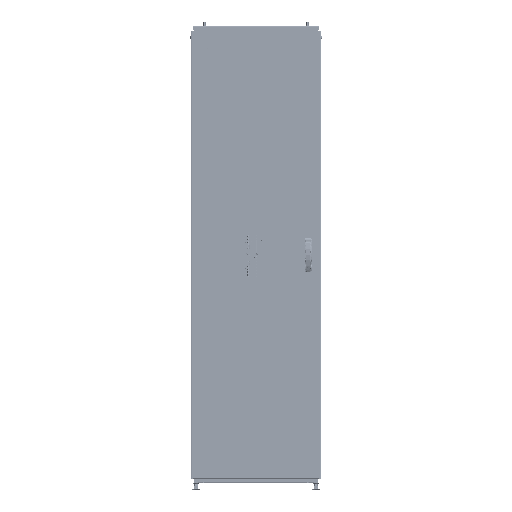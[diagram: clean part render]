
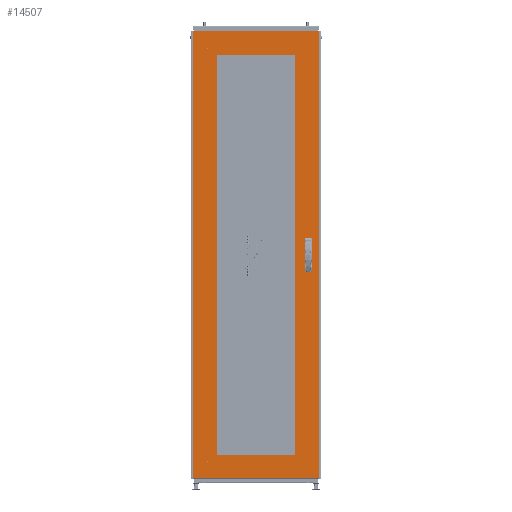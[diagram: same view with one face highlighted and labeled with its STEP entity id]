
A CAD part, top view. The second image highlights one B-rep face of the part: STEP entity #14507.
In plain terms, the highlighted planar face has unit normal (0, 0, 1).
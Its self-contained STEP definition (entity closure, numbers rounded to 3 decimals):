
#2275 = VERTEX_POINT ( 'NONE', #152290 ) ;
#3555 = CARTESIAN_POINT ( 'NONE',  ( 230.187, -75.082, 1.397 ) ) ;
#3805 = VERTEX_POINT ( 'NONE', #157241 ) ;
#8408 = DIRECTION ( 'NONE',  ( 0., 0., 1. ) ) ;
#11438 = VECTOR ( 'NONE', #517570, 1000. ) ;
#13865 = LINE ( 'NONE', #368806, #325184 ) ;
#14507 = ADVANCED_FACE ( 'NONE', ( #64944, #312590, #160288, #458906 ), #376038, .T. ) ;
#14880 = CARTESIAN_POINT ( 'NONE',  ( 292.9, 1041.508, 1.397 ) ) ;
#18480 = EDGE_CURVE ( 'NONE', #3805, #479875, #290002, .T. ) ;
#26893 = VECTOR ( 'NONE', #480709, 1000. ) ;
#27305 = LINE ( 'NONE', #41781, #446678 ) ;
#29158 = CARTESIAN_POINT ( 'NONE',  ( 184., -933., 1.397 ) ) ;
#38684 = VECTOR ( 'NONE', #236541, 1000. ) ;
#41344 = VERTEX_POINT ( 'NONE', #525787 ) ;
#41781 = CARTESIAN_POINT ( 'NONE',  ( -184., 933., 1.397 ) ) ;
#49761 = ORIENTED_EDGE ( 'NONE', *, *, #237920, .F. ) ;
#52082 = VECTOR ( 'NONE', #243988, 1000. ) ;
#54245 = EDGE_CURVE ( 'NONE', #2275, #515191, #13865, .T. ) ;
#56646 = VECTOR ( 'NONE', #267216, 1000. ) ;
#60005 = ORIENTED_EDGE ( 'NONE', *, *, #386078, .F. ) ;
#64497 = EDGE_CURVE ( 'NONE', #338889, #494297, #451958, .T. ) ;
#64944 = FACE_BOUND ( 'NONE', #293402, .T. ) ;
#66373 = CARTESIAN_POINT ( 'NONE',  ( 184., 933., 1.397 ) ) ;
#66406 = VERTEX_POINT ( 'NONE', #116161 ) ;
#69788 = EDGE_CURVE ( 'NONE', #502716, #208051, #106744, .T. ) ;
#77549 = DIRECTION ( 'NONE',  ( 0., 1., 0. ) ) ;
#82589 = ORIENTED_EDGE ( 'NONE', *, *, #166233, .F. ) ;
#82593 = ORIENTED_EDGE ( 'NONE', *, *, #295966, .T. ) ;
#90617 = CARTESIAN_POINT ( 'NONE',  ( 292.9, -1042.929, 1.397 ) ) ;
#97867 = LINE ( 'NONE', #362744, #218639 ) ;
#102172 = CARTESIAN_POINT ( 'NONE',  ( 230.187, -75.082, 1.397 ) ) ;
#106744 = LINE ( 'NONE', #29158, #11438 ) ;
#107275 = ORIENTED_EDGE ( 'NONE', *, *, #397204, .F. ) ;
#108632 = CARTESIAN_POINT ( 'NONE',  ( 184., -933., 1.397 ) ) ;
#116161 = CARTESIAN_POINT ( 'NONE',  ( -292.9, 1041.508, 1.397 ) ) ;
#120616 = ORIENTED_EDGE ( 'NONE', *, *, #54245, .F. ) ;
#123437 = DIRECTION ( 'NONE',  ( 0., 1., 0. ) ) ;
#138247 = EDGE_CURVE ( 'NONE', #494297, #409183, #316879, .T. ) ;
#152290 = CARTESIAN_POINT ( 'NONE',  ( 255.333, 24.917, 1.397 ) ) ;
#157241 = CARTESIAN_POINT ( 'NONE',  ( 230.187, -24.917, 1.397 ) ) ;
#158228 = EDGE_CURVE ( 'NONE', #439311, #483410, #97867, .T. ) ;
#160130 = LINE ( 'NONE', #325677, #52082 ) ;
#160288 = FACE_BOUND ( 'NONE', #389326, .T. ) ;
#166233 = EDGE_CURVE ( 'NONE', #41344, #401754, #496726, .T. ) ;
#167501 = ORIENTED_EDGE ( 'NONE', *, *, #69788, .T. ) ;
#168966 = ORIENTED_EDGE ( 'NONE', *, *, #361620, .T. ) ;
#169597 = VERTEX_POINT ( 'NONE', #392297 ) ;
#174189 = EDGE_CURVE ( 'NONE', #208051, #169597, #27305, .T. ) ;
#180224 = ORIENTED_EDGE ( 'NONE', *, *, #138247, .T. ) ;
#205373 = LINE ( 'NONE', #66373, #427540 ) ;
#206139 = VECTOR ( 'NONE', #458004, 1000. ) ;
#206142 = CARTESIAN_POINT ( 'NONE',  ( -294.321, -1041.508, 1.397 ) ) ;
#207526 = ORIENTED_EDGE ( 'NONE', *, *, #158228, .F. ) ;
#208051 = VERTEX_POINT ( 'NONE', #248371 ) ;
#216063 = CARTESIAN_POINT ( 'NONE',  ( -295.897, -1044.505, 1.397 ) ) ;
#218240 = ORIENTED_EDGE ( 'NONE', *, *, #328923, .T. ) ;
#218639 = VECTOR ( 'NONE', #316590, 1000. ) ;
#224728 = ORIENTED_EDGE ( 'NONE', *, *, #64497, .T. ) ;
#236541 = DIRECTION ( 'NONE',  ( 1., 0., 0. ) ) ;
#237920 = EDGE_CURVE ( 'NONE', #515191, #439311, #255606, .T. ) ;
#243988 = DIRECTION ( 'NONE',  ( -1., 0., 0. ) ) ;
#248371 = CARTESIAN_POINT ( 'NONE',  ( -184., -933., 1.397 ) ) ;
#248679 = DIRECTION ( 'NONE',  ( 0., 1., 0. ) ) ;
#250944 = LINE ( 'NONE', #402628, #441590 ) ;
#253668 = CARTESIAN_POINT ( 'NONE',  ( -292.9, 1042.929, 1.397 ) ) ;
#254633 = LINE ( 'NONE', #435576, #38684 ) ;
#255606 = LINE ( 'NONE', #326047, #26893 ) ;
#258187 = DIRECTION ( 'NONE',  ( 0., -1., 0. ) ) ;
#267216 = DIRECTION ( 'NONE',  ( 1., 0., 0. ) ) ;
#283480 = EDGE_CURVE ( 'NONE', #409183, #66406, #250944, .T. ) ;
#285259 = DIRECTION ( 'NONE',  ( -1., 0., 0. ) ) ;
#290002 = LINE ( 'NONE', #498171, #467882 ) ;
#293402 = EDGE_LOOP ( 'NONE', ( #82589, #107275, #524467, #330431 ) ) ;
#295966 = EDGE_CURVE ( 'NONE', #355615, #502716, #205373, .T. ) ;
#312590 = FACE_BOUND ( 'NONE', #523699, .T. ) ;
#316590 = DIRECTION ( 'NONE',  ( 0., -1., 0. ) ) ;
#316879 = LINE ( 'NONE', #90617, #386778 ) ;
#319734 = AXIS2_PLACEMENT_3D ( 'NONE', #216063, #8408, #374269 ) ;
#321869 = DIRECTION ( 'NONE',  ( 0., -1., 0. ) ) ;
#324932 = VECTOR ( 'NONE', #366062, 1000. ) ;
#325184 = VECTOR ( 'NONE', #77549, 1000. ) ;
#325677 = CARTESIAN_POINT ( 'NONE',  ( 230.187, -24.917, 1.397 ) ) ;
#326047 = CARTESIAN_POINT ( 'NONE',  ( 230.187, 75.082, 1.397 ) ) ;
#328923 = EDGE_CURVE ( 'NONE', #66406, #338889, #453878, .T. ) ;
#330431 = ORIENTED_EDGE ( 'NONE', *, *, #505952, .F. ) ;
#333917 = CARTESIAN_POINT ( 'NONE',  ( -292.9, -1041.508, 1.397 ) ) ;
#338889 = VERTEX_POINT ( 'NONE', #333917 ) ;
#347309 = VECTOR ( 'NONE', #372911, 1000. ) ;
#355615 = VERTEX_POINT ( 'NONE', #405383 ) ;
#361620 = EDGE_CURVE ( 'NONE', #169597, #355615, #488886, .T. ) ;
#362744 = CARTESIAN_POINT ( 'NONE',  ( 230.187, 24.917, 1.397 ) ) ;
#366062 = DIRECTION ( 'NONE',  ( 1., 0., 0. ) ) ;
#368806 = CARTESIAN_POINT ( 'NONE',  ( 255.333, 24.917, 1.397 ) ) ;
#372911 = DIRECTION ( 'NONE',  ( 1., 0., 0. ) ) ;
#374269 = DIRECTION ( 'NONE',  ( 1., 0., 0. ) ) ;
#376038 = PLANE ( 'NONE',  #319734 ) ;
#386078 = EDGE_CURVE ( 'NONE', #483410, #2275, #254633, .T. ) ;
#386778 = VECTOR ( 'NONE', #248679, 1000. ) ;
#389326 = EDGE_LOOP ( 'NONE', ( #439480, #168966, #82593, #167501 ) ) ;
#392297 = CARTESIAN_POINT ( 'NONE',  ( -184., 933., 1.397 ) ) ;
#397204 = EDGE_CURVE ( 'NONE', #479875, #41344, #487037, .T. ) ;
#401754 = VERTEX_POINT ( 'NONE', #418103 ) ;
#402628 = CARTESIAN_POINT ( 'NONE',  ( 294.321, 1041.508, 1.397 ) ) ;
#405383 = CARTESIAN_POINT ( 'NONE',  ( 184., 933., 1.397 ) ) ;
#409183 = VERTEX_POINT ( 'NONE', #14880 ) ;
#410221 = CARTESIAN_POINT ( 'NONE',  ( 292.9, -1041.508, 1.397 ) ) ;
#411904 = CARTESIAN_POINT ( 'NONE',  ( 255.333, 75.082, 1.397 ) ) ;
#413941 = EDGE_LOOP ( 'NONE', ( #437710, #218240, #224728, #180224 ) ) ;
#417993 = CARTESIAN_POINT ( 'NONE',  ( 255.333, -24.917, 1.397 ) ) ;
#418103 = CARTESIAN_POINT ( 'NONE',  ( 255.333, -24.917, 1.397 ) ) ;
#419726 = DIRECTION ( 'NONE',  ( 0., 1., 0. ) ) ;
#427540 = VECTOR ( 'NONE', #321869, 1000. ) ;
#435576 = CARTESIAN_POINT ( 'NONE',  ( 230.187, 24.917, 1.397 ) ) ;
#437710 = ORIENTED_EDGE ( 'NONE', *, *, #283480, .T. ) ;
#439311 = VERTEX_POINT ( 'NONE', #463348 ) ;
#439480 = ORIENTED_EDGE ( 'NONE', *, *, #174189, .T. ) ;
#441590 = VECTOR ( 'NONE', #285259, 1000. ) ;
#446678 = VECTOR ( 'NONE', #123437, 1000. ) ;
#451958 = LINE ( 'NONE', #206142, #324932 ) ;
#453878 = LINE ( 'NONE', #253668, #206139 ) ;
#458004 = DIRECTION ( 'NONE',  ( 0., -1., 0. ) ) ;
#458906 = FACE_OUTER_BOUND ( 'NONE', #413941, .T. ) ;
#463348 = CARTESIAN_POINT ( 'NONE',  ( 230.187, 75.082, 1.397 ) ) ;
#467882 = VECTOR ( 'NONE', #258187, 1000. ) ;
#471110 = VECTOR ( 'NONE', #419726, 1000. ) ;
#479875 = VERTEX_POINT ( 'NONE', #102172 ) ;
#480709 = DIRECTION ( 'NONE',  ( -1., 0., 0. ) ) ;
#483410 = VERTEX_POINT ( 'NONE', #510808 ) ;
#487037 = LINE ( 'NONE', #3555, #347309 ) ;
#488886 = LINE ( 'NONE', #514163, #56646 ) ;
#494297 = VERTEX_POINT ( 'NONE', #410221 ) ;
#496726 = LINE ( 'NONE', #417993, #471110 ) ;
#498171 = CARTESIAN_POINT ( 'NONE',  ( 230.187, -24.917, 1.397 ) ) ;
#502716 = VERTEX_POINT ( 'NONE', #108632 ) ;
#505952 = EDGE_CURVE ( 'NONE', #401754, #3805, #160130, .T. ) ;
#510808 = CARTESIAN_POINT ( 'NONE',  ( 230.187, 24.917, 1.397 ) ) ;
#514163 = CARTESIAN_POINT ( 'NONE',  ( 184., 933., 1.397 ) ) ;
#515191 = VERTEX_POINT ( 'NONE', #411904 ) ;
#517570 = DIRECTION ( 'NONE',  ( -1., 0., 0. ) ) ;
#523699 = EDGE_LOOP ( 'NONE', ( #120616, #60005, #207526, #49761 ) ) ;
#524467 = ORIENTED_EDGE ( 'NONE', *, *, #18480, .F. ) ;
#525787 = CARTESIAN_POINT ( 'NONE',  ( 255.333, -75.082, 1.397 ) ) ;
